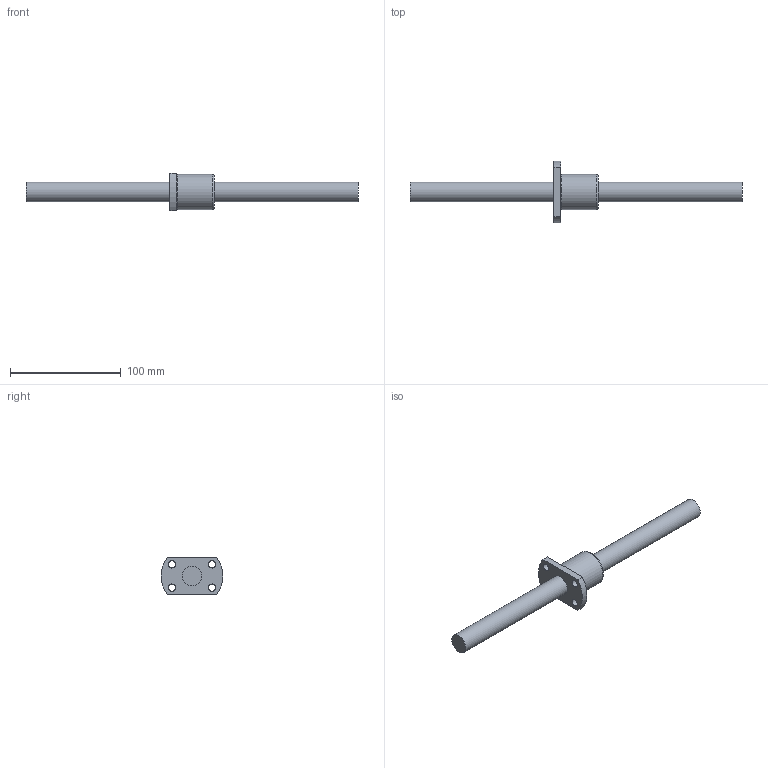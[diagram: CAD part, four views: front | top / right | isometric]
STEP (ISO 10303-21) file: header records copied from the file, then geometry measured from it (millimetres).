
FILE_DESCRIPTION((''),'2;1');
FILE_NAME('D:\製品 (図面)\カタログ用3D\ネジ関連\STEP形式\TMK\TMK18.stp','2010-06-02T15:23:28',('Tsuchiya'),(''),'Autodesk Inventor 10','Autodesk Inventor 10','');
FILE_SCHEMA(('AUTOMOTIVE_DESIGN { 1 0 10303 214 1 1 1 1 }'));
Length unit declared in the file: millimetre
Products named in the file (3): TMK18; TMK181; TMK182
Assembly tree (2 placements, depth 2):
  TMK18
    TMK181
    TMK182
Bounding box: 300 x 56 x 34 mm (x, y, z)
Volume: 103320.1 mm3; surface area: 27312.6 mm2
Topology: 2 solids, 2 shells, 18 faces, 41 edges, 28 vertices
Faces by surface type: plane 7, cylinder 5, bspline 5, torus 1
Full cylindrical faces by diameter (mm): 18 x2, 32 x1
Entity records: 628 total; most frequent: CARTESIAN_POINT 187, DIRECTION 84, ORIENTED_EDGE 56, AXIS2_PLACEMENT_3D 38, EDGE_LOOP 38, EDGE_CURVE 28, VERTEX_POINT 24, CIRCLE 20
